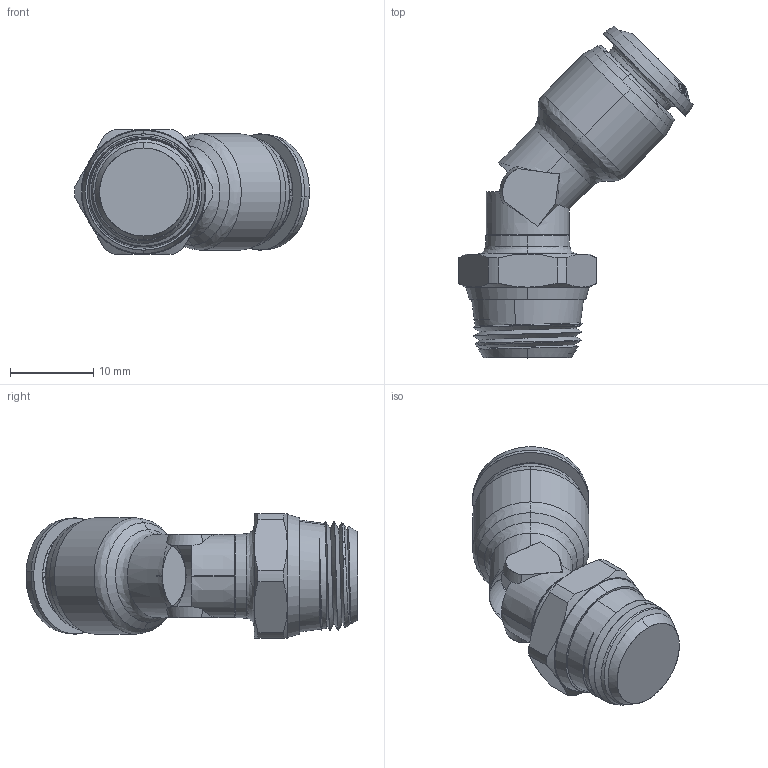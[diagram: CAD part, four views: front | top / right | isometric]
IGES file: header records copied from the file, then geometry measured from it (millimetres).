
Start section: SolidWorks IGES file using analytic representation for surfaces
Global section: file name: K:\Disegni Esecutivi\ALPHA TECHNOLOGIES\85000\Assiemi-85000\85170\IGES\8517000009A.IGS; native system: SolidWorks 2016; preprocessor: SolidWorks 2016; author: cad06; date: 200519.140654; units: millimetre
Bounding box: 28.25 x 39.96 x 15 mm (x, y, z)
Surface area: 2690.4 mm2 (no closed solid volume)
Topology: 0 solids, 0 shells, 223 faces, 2383 edges, 2383 vertices
Faces by surface type: bspline 141, revolution 82
